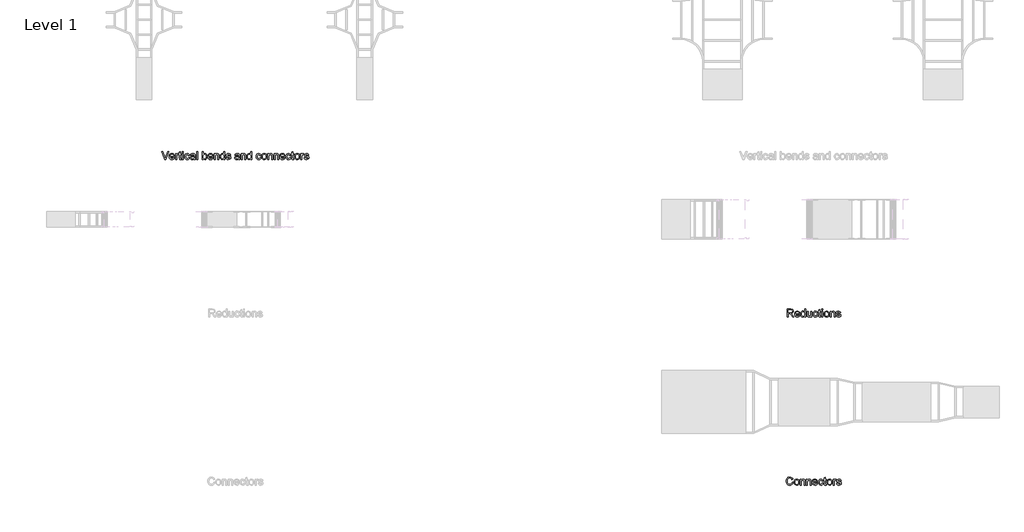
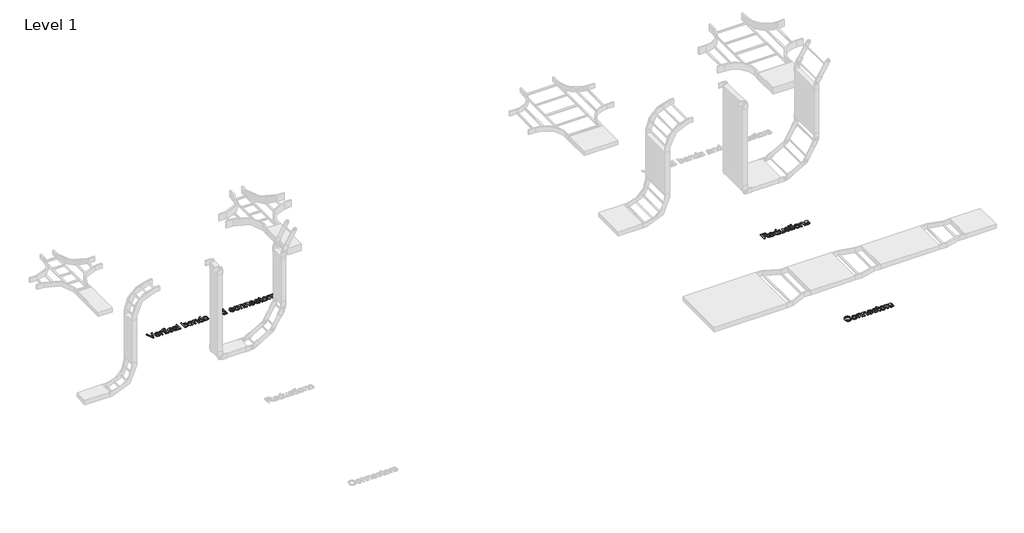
# One storey, part 94 of 106: 3 proxies.
"""IFC4 building model written with IfcOpenShell, lengths in millimetres."""

from ifc_helpers import new_model, si_unit, origin, origin_with_axes, place, context, project, spatial, polyline, outline, extrude, element, save

model = new_model("IFC4")

# Units and contexts
model_context = context("Model", 3, world=origin())
ifc_project = project(units=[si_unit("LENGTHUNIT", "METRE", prefix="MILLI")], contexts=[model_context])

# Site, building, storey
site = spatial("IfcSite", under=ifc_project)
building = spatial("IfcBuilding", under=site)
storey = spatial("IfcBuildingStorey", under=building, Name="Level 1", Elevation=0.0)

# Proxies
placement = place(None, origin())
element("IfcBuildingElementProxy", 1, Name="150mm Arial 2", ObjectType="150mm Arial 2", at=placement, inside=storey, context=model_context, shape_type="SweptSolid", body=[
    extrude(outline(polyline([(130972.9295586, 57347.8476348), (130913.0015816, 57498.5321), (130933.1615149, 57498.5321), (130973.2974406, 57389.9701232), (130981.4276327, 57365.5059705), (130989.4474602, 57389.9701232), (131029.6937505, 57498.5321), (131049.8168956, 57498.5321), (130992.353728, 57347.8476348), (130972.9295586, 57347.8476348)])), origin_with_axes(), (0.0, 0.0, 1.0), 15.0),
    extrude(outline(polyline([(131142.4863702, 57380.8098615), (131160.9540463, 57378.4554168), (131154.2999808, 57364.5402803), (131143.6819867, 57354.1384169), (131129.3391874, 57347.6544967), (131111.5107062, 57345.49319), (131089.4101953, 57349.2225937), (131072.4048501, 57360.4108049), (131061.5615283, 57378.3312566), (131057.9470877, 57402.2573819), (131061.5983165, 57426.988249), (131072.5520029, 57445.4835163), (131089.3274219, 57457.0166168), (131110.4438484, 57460.8609837), (131130.9026859, 57457.0258139), (131147.250442, 57445.5203045), (131157.9696037, 57427.0618254), (131161.5426575, 57402.3677465), (131161.4322929, 57397.2909749), (131076.7826459, 57397.2909749), (131080.043, 57383.1918975), (131087.6167706, 57372.8268223), (131098.5474644, 57366.4532667), (131111.8785882, 57364.3287482), (131130.3462644, 57368.2650855), (131142.4863702, 57380.8098615)]), holes=[polyline([(131076.7826459, 57416.1265331), (131142.7070994, 57416.1265331), (131140.1595166, 57426.0777411), (131135.1655185, 57433.1962577), (131124.1842409, 57439.8181336), (131110.370272, 57442.0254255), (131097.6737447, 57440.2641905), (131087.1753122, 57434.9804853), (131079.8774531, 57426.7445272), (131076.7826459, 57416.1265331)])]), origin_with_axes(), (0.0, 0.0, 1.0), 15.0),
    extrude(outline(polyline([(131291.0371198, 57363.556196), (131293.3915646, 57347.2958118), (131279.3016842, 57345.49319), (131263.5195466, 57348.620187), (131255.6468719, 57356.8239555), (131253.3660035, 57378.1978994), (131253.3660035, 57439.6709808), (131239.2393349, 57439.6709808), (131239.2393349, 57455.0484482), (131239.2393349, 57458.5065389), (131253.3660035, 57458.5065389), (131253.3660035, 57485.3987128), (131272.2015617, 57496.4719608), (131272.2015617, 57458.5065389), (131291.0371198, 57458.5065389), (131291.0371198, 57439.6709808), (131272.2015617, 57439.6709808), (131272.2015617, 57378.7497224), (131273.1948431, 57369.0376377), (131276.4138105, 57365.597941), (131282.8333514, 57364.3287482), (131291.0371198, 57363.556196)])), origin_with_axes(), (0.0, 0.0, 1.0), 15.0),
    extrude(outline(polyline([(131180.3782157, 57347.8476348), (131180.3782157, 57458.5065389), (131196.8593291, 57458.5065389), (131196.8593291, 57442.1357901), (131208.5579765, 57457.2189519), (131220.3302004, 57460.8609837), (131239.2393349, 57455.0484482), (131232.9485528, 57438.1626646), (131219.704801, 57442.0254255), (131209.0546172, 57438.3098174), (131202.2671944, 57428.0091215), (131199.2137738, 57406.0097782), (131199.2137738, 57347.8476348), (131180.3782157, 57347.8476348)])), origin_with_axes(), (0.0, 0.0, 1.0), 15.0),
    extrude(outline(polyline([(131309.872678, 57479.6965419), (131309.872678, 57498.5321), (131328.7082362, 57498.5321), (131328.7082362, 57479.6965419), (131309.872678, 57479.6965419)])), origin_with_axes(), (0.0, 0.0, 1.0), 15.0),
    extrude(outline(polyline([(131309.872678, 57347.8476348), (131309.872678, 57458.5065389), (131328.7082362, 57458.5065389), (131328.7082362, 57347.8476348), (131309.872678, 57347.8476348)])), origin_with_axes(), (0.0, 0.0, 1.0), 15.0),
    extrude(outline(polyline([(131427.5949165, 57387.8731959), (131446.4304746, 57385.5187511), (131441.1789591, 57368.7663247), (131431.3105246, 57356.1065856), (131417.7540731, 57348.1465389), (131401.4385066, 57345.49319), (131381.4027334, 57349.1950026), (131365.735559, 57360.3004403), (131355.6234026, 57378.3220596), (131352.2526838, 57402.7724167), (131353.6920221, 57419.5340401), (131358.0100371, 57434.0607803), (131365.2757065, 57445.7916175), (131375.5580082, 57454.1655314), (131387.8590624, 57459.1871206), (131401.1809892, 57460.8609837), (131417.096484, 57458.5617212), (131429.8206025, 57451.6639338), (131438.9486745, 57440.5355035), (131444.0760298, 57425.5443122), (131425.2404717, 57423.1898674), (131416.5032743, 57437.2981419), (131401.328142, 57442.0254255), (131389.1558465, 57439.6985719), (131379.4943456, 57432.7180111), (131373.1897679, 57420.7066639), (131371.088242, 57403.2874515), (131373.1437826, 57385.6337142), (131379.3104046, 57373.5809803), (131388.7971615, 57366.6418062), (131400.8131072, 57364.3287482), (131410.5665786, 57365.772685), (131418.5634135, 57370.1044955), (131424.3805475, 57377.4345442), (131427.5949165, 57387.8731959)])), origin_with_axes(), (0.0, 0.0, 1.0), 15.0),
    extrude(outline(polyline([(131533.5449311, 57361.9743034), (131515.27959, 57349.2087982), (131495.1012626, 57345.49319), (131479.3605117, 57347.7280731), (131467.7492362, 57354.4327225), (131460.5893329, 57364.6138567), (131458.2026985, 57377.2781944), (131461.807942, 57392.1774152), (131471.2809034, 57402.9931459), (131484.4694729, 57409.1735634), (131500.7666453, 57412.0062547), (131533.4345665, 57418.4809779), (131533.5449311, 57422.6748326), (131532.248147, 57431.0809362), (131528.3577949, 57436.580772), (131519.6573857, 57440.6642622), (131507.535674, 57442.0254255), (131488.4793867, 57438.4017879), (131479.3927014, 57425.5443122), (131460.5571432, 57427.8987569), (131468.7057294, 57446.2928567), (131485.1132664, 57457.0717991), (131509.9636952, 57460.8609837), (131532.790773, 57457.5132575), (131545.6850369, 57449.107154), (131551.4607842, 57436.3232546), (131552.3804892, 57419.8421412), (131552.3804892, 57396.4080581), (131553.3369824, 57363.6849547), (131557.0893788, 57347.8476348), (131538.2538206, 57347.8476348), (131533.5449311, 57361.9743034)]), holes=[polyline([(131533.5449311, 57399.6454197), (131503.1578783, 57393.8696724), (131486.9526764, 57390.8162518), (131479.6134306, 57385.8498449), (131477.0382566, 57378.6025696), (131482.648457, 57368.4122383), (131499.1111763, 57364.3287482), (131518.1674637, 57368.8353026), (131530.4547223, 57379.7430038), (131533.4345665, 57394.3111308), (131533.5449311, 57399.6454197)])]), origin_with_axes(), (0.0, 0.0, 1.0), 15.0),
    extrude(outline(polyline([(131578.2793817, 57347.8476348), (131578.2793817, 57498.5321), (131597.1149398, 57498.5321), (131597.1149398, 57347.8476348), (131578.2793817, 57347.8476348)])), origin_with_axes(), (0.0, 0.0, 1.0), 15.0),
    extrude(outline(polyline([(131703.0649544, 57347.8476348), (131684.2293963, 57347.8476348), (131684.2293963, 57498.5321), (131703.0649544, 57498.5321), (131703.0649544, 57442.6508249), (131716.253524, 57456.308444), (131732.6426669, 57460.8609837), (131751.5150132, 57456.7590995), (131766.1567166, 57445.2259989), (131775.1514314, 57427.2917516), (131778.4071871, 57404.8325558), (131775.0364683, 57379.6878215), (131764.9243119, 57360.981022), (131750.084872, 57349.365148), (131732.5323023, 57345.49319), (131715.7844744, 57350.4871881), (131703.0649544, 57365.4691823), (131703.0649544, 57347.8476348)]), holes=[polyline([(131703.0649544, 57403.949639), (131704.3525414, 57388.2410779), (131708.2153024, 57377.6092882), (131718.0837369, 57367.6488832), (131730.9136215, 57364.3287482), (131741.7845344, 57366.7751634), (131751.0735548, 57374.1144092), (131757.4471104, 57386.3005003), (131759.5716289, 57403.2874515), (131757.5344824, 57420.5227229), (131751.4230427, 57432.5708583), (131742.4237294, 57439.6617837), (131731.7229619, 57442.0254255), (131720.8520489, 57439.5790103), (131711.5630285, 57432.2397645), (131705.189473, 57420.2744026), (131703.0649544, 57403.949639)])]), origin_with_axes(), (0.0, 0.0, 1.0), 15.0),
    extrude(outline(polyline([(131877.0731382, 57380.8098615), (131895.5408143, 57378.4554168), (131888.8867487, 57364.5402803), (131878.2687546, 57354.1384169), (131863.9259554, 57347.6544967), (131846.0974742, 57345.49319), (131823.9969633, 57349.2225937), (131806.9916181, 57360.4108049), (131796.1482963, 57378.3312566), (131792.5338557, 57402.2573819), (131796.1850845, 57426.988249), (131807.1387709, 57445.4835163), (131823.9141899, 57457.0166168), (131845.0306164, 57460.8609837), (131865.4894538, 57457.0258139), (131881.83721, 57445.5203045), (131892.5563716, 57427.0618254), (131896.1294255, 57402.3677465), (131896.0190609, 57397.2909749), (131811.3694138, 57397.2909749), (131814.629768, 57383.1918975), (131822.2035386, 57372.8268223), (131833.1342324, 57366.4532667), (131846.4653562, 57364.3287482), (131864.9330323, 57368.2650855), (131877.0731382, 57380.8098615)]), holes=[polyline([(131811.3694138, 57416.1265331), (131877.2938674, 57416.1265331), (131874.7462845, 57426.0777411), (131869.7522865, 57433.1962577), (131858.7710089, 57439.8181336), (131844.95704, 57442.0254255), (131832.2605126, 57440.2641905), (131821.7620802, 57434.9804853), (131814.4642211, 57426.7445272), (131811.3694138, 57416.1265331)])]), origin_with_axes(), (0.0, 0.0, 1.0), 15.0),
    extrude(outline(polyline([(131914.9649837, 57347.8476348), (131914.9649837, 57458.5065389), (131933.8005418, 57458.5065389), (131933.8005418, 57443.0554951), (131948.2031219, 57456.4096116), (131967.8664146, 57460.8609837), (131985.653509, 57457.2741342), (131997.7936149, 57447.8563552), (132003.4406035, 57434.0055981), (132004.4338849, 57415.7954393), (132004.4338849, 57347.8476348), (131985.5983267, 57347.8476348), (131985.5983267, 57413.2570535), (131983.427823, 57429.9221079), (131975.7574834, 57438.7328817), (131962.8264312, 57442.0254255), (131951.7945699, 57440.1768185), (131942.3905864, 57434.6309974), (131935.948053, 57423.9164343), (131933.8005418, 57406.5616012), (131933.8005418, 57347.8476348), (131914.9649837, 57347.8476348)])), origin_with_axes(), (0.0, 0.0, 1.0), 15.0),
    extrude(outline(polyline([(132098.6116757, 57347.8476348), (132098.6116757, 57365.6163351), (132086.1496731, 57350.5239763), (132068.9235986, 57345.49319), (132056.7467046, 57347.3142059), (132045.5998802, 57352.7772535), (132036.163707, 57361.5006553), (132029.1187668, 57373.1027337), (132024.731774, 57387.1144392), (132023.269443, 57403.0667223), (132028.6589143, 57433.0491049), (132035.3911548, 57444.9408904), (132044.8089339, 57453.6872848), (132056.1994801, 57459.067559), (132068.8500222, 57460.8609837), (132086.2140524, 57455.7290299), (132098.6116757, 57442.3933075), (132098.6116757, 57498.5321), (132117.4472338, 57498.5321), (132117.4472338, 57347.8476348), (132098.6116757, 57347.8476348)]), holes=[polyline([(132042.1050012, 57403.1402987), (132044.2295197, 57386.1027638), (132050.6030753, 57373.9856505), (132059.8645045, 57366.7429738), (132070.652644, 57364.3287482), (132081.436185, 57366.6326092), (132090.4630895, 57373.5441921), (132096.5745291, 57385.1922558), (132098.6116757, 57401.7055589), (132096.5377409, 57419.7593678), (132090.3159367, 57432.2765527), (132081.059106, 57439.5882073), (132069.8800918, 57442.0254255), (132058.9815877, 57439.6847764), (132050.0512523, 57432.6628288), (132044.091564, 57420.6008979), (132042.1050012, 57403.1402987)])]), origin_with_axes(), (0.0, 0.0, 1.0), 15.0),
    extrude(outline(polyline([(132138.6372367, 57380.8098615), (132157.4727949, 57383.1643063), (132160.443442, 57375.1076906), (132166.1915982, 57369.1847905), (132186.1675905, 57364.3287482), (132205.3710307, 57368.7801203), (132211.6250246, 57379.227969), (132210.052329, 57384.028829), (132205.3342425, 57387.6892549), (132185.9468613, 57393.060332), (132157.5831595, 57402.275776), (132145.2039303, 57413.0363243), (132140.9916815, 57428.2298507), (132144.3761959, 57442.2645488), (132153.6100339, 57452.988309), (132165.5845929, 57458.5617212), (132181.7897948, 57460.8609837), (132204.7088431, 57457.1637696), (132219.2769701, 57447.1573794), (132225.7516932, 57430.2532017), (132206.916135, 57427.8987569), (132199.8344066, 57438.2914233), (132183.2613227, 57442.0254255), (132165.235105, 57438.4569702), (132159.8272397, 57430.1428371), (132162.0713198, 57424.6613954), (132169.0978659, 57420.5043288), (132185.3214619, 57416.4944151), (132212.9677939, 57407.628459), (132225.8068755, 57397.5852805), (132230.4605827, 57381.2145317), (132224.9975351, 57363.188314), (132209.2337916, 57350.1101091), (132185.9100731, 57345.49319), (132166.9181651, 57347.7188761), (132153.0582109, 57354.3959343), (132143.8059788, 57365.4507882), (132138.6372367, 57380.8098615)])), origin_with_axes(), (0.0, 0.0, 1.0), 15.0),
    extrude(outline(polyline([(132381.145048, 57361.9743034), (132362.8797069, 57349.2087982), (132342.7013795, 57345.49319), (132326.9606286, 57347.7280731), (132315.3493531, 57354.4327225), (132308.1894498, 57364.6138567), (132305.8028153, 57377.2781944), (132309.4080589, 57392.1774152), (132318.8810203, 57402.9931459), (132332.0695898, 57409.1735634), (132348.3667622, 57412.0062547), (132381.0346834, 57418.4809779), (132381.145048, 57422.6748326), (132379.8482639, 57431.0809362), (132375.9579118, 57436.580772), (132367.2575026, 57440.6642622), (132355.1357909, 57442.0254255), (132336.0795035, 57438.4017879), (132326.9928183, 57425.5443122), (132308.1572601, 57427.8987569), (132316.3058463, 57446.2928567), (132332.7133833, 57457.0717991), (132357.5638121, 57460.8609837), (132380.3908899, 57457.5132575), (132393.2851538, 57449.107154), (132399.0609011, 57436.3232546), (132399.9806061, 57419.8421412), (132399.9806061, 57396.4080581), (132400.9370993, 57363.6849547), (132404.6894956, 57347.8476348), (132385.8539375, 57347.8476348), (132381.145048, 57361.9743034)]), holes=[polyline([(132381.145048, 57399.6454197), (132350.7579952, 57393.8696724), (132334.5527933, 57390.8162518), (132327.2135475, 57385.8498449), (132324.6383735, 57378.6025696), (132330.2485739, 57368.4122383), (132346.7112932, 57364.3287482), (132365.7675806, 57368.8353026), (132378.0548392, 57379.7430038), (132381.0346834, 57394.3111308), (132381.145048, 57399.6454197)])]), origin_with_axes(), (0.0, 0.0, 1.0), 15.0),
    extrude(outline(polyline([(132425.8794986, 57347.8476348), (132425.8794986, 57458.5065389), (132444.7150567, 57458.5065389), (132444.7150567, 57443.0554951), (132459.1176368, 57456.4096116), (132478.7809295, 57460.8609837), (132496.5680239, 57457.2741342), (132508.7081298, 57447.8563552), (132514.3551184, 57434.0055981), (132515.3483998, 57415.7954393), (132515.3483998, 57347.8476348), (132496.5128416, 57347.8476348), (132496.5128416, 57413.2570535), (132494.3423379, 57429.9221079), (132486.6719983, 57438.7328817), (132473.7409461, 57442.0254255), (132462.7090848, 57440.1768185), (132453.3051013, 57434.6309974), (132446.8625679, 57423.9164343), (132444.7150567, 57406.5616012), (132444.7150567, 57347.8476348), (132425.8794986, 57347.8476348)])), origin_with_axes(), (0.0, 0.0, 1.0), 15.0),
    extrude(outline(polyline([(132609.5261906, 57347.8476348), (132609.5261906, 57365.6163351), (132597.064188, 57350.5239763), (132579.8381135, 57345.49319), (132567.6612195, 57347.3142059), (132556.5143951, 57352.7772535), (132547.0782219, 57361.5006553), (132540.0332817, 57373.1027337), (132535.6462889, 57387.1144392), (132534.1839579, 57403.0667223), (132539.5734292, 57433.0491049), (132546.3056697, 57444.9408904), (132555.7234488, 57453.6872848), (132567.113995, 57459.067559), (132579.7645371, 57460.8609837), (132597.1285673, 57455.7290299), (132609.5261906, 57442.3933075), (132609.5261906, 57498.5321), (132628.3617487, 57498.5321), (132628.3617487, 57347.8476348), (132609.5261906, 57347.8476348)]), holes=[polyline([(132553.0195161, 57403.1402987), (132555.1440346, 57386.1027638), (132561.5175902, 57373.9856505), (132570.7790194, 57366.7429738), (132581.5671589, 57364.3287482), (132592.3506999, 57366.6326092), (132601.3776044, 57373.5441921), (132607.489044, 57385.1922558), (132609.5261906, 57401.7055589), (132607.4522558, 57419.7593678), (132601.2304516, 57432.2765527), (132591.9736209, 57439.5882073), (132580.7946067, 57442.0254255), (132569.8961026, 57439.6847764), (132560.9657672, 57432.6628288), (132555.0060789, 57420.6008979), (132553.0195161, 57403.1402987)])]), origin_with_axes(), (0.0, 0.0, 1.0), 15.0),
    extrude(outline(polyline([(132786.1095482, 57387.8731959), (132804.9451064, 57385.5187511), (132799.6935909, 57368.7663247), (132789.8251564, 57356.1065856), (132776.2687049, 57348.1465389), (132759.9531384, 57345.49319), (132739.9173652, 57349.1950026), (132724.2501908, 57360.3004403), (132714.1380344, 57378.3220596), (132710.7673156, 57402.7724167), (132712.2066539, 57419.5340401), (132716.5246689, 57434.0607803), (132723.7903383, 57445.7916175), (132734.07264, 57454.1655314), (132746.3736942, 57459.1871206), (132759.695621, 57460.8609837), (132775.6111158, 57458.5617212), (132788.3352343, 57451.6639338), (132797.4633063, 57440.5355035), (132802.5906616, 57425.5443122), (132783.7551035, 57423.1898674), (132775.0179061, 57437.2981419), (132759.8427738, 57442.0254255), (132747.6704783, 57439.6985719), (132738.0089774, 57432.7180111), (132731.7043997, 57420.7066639), (132729.6028738, 57403.2874515), (132731.6584144, 57385.6337142), (132737.8250364, 57373.5809803), (132747.3117933, 57366.6418062), (132759.327739, 57364.3287482), (132769.0812104, 57365.772685), (132777.0780453, 57370.1044955), (132782.8951793, 57377.4345442), (132786.1095482, 57387.8731959)])), origin_with_axes(), (0.0, 0.0, 1.0), 15.0),
    extrude(outline(polyline([(132816.7173302, 57403.1770869), (132820.7916233, 57429.8577286), (132833.0145026, 57448.6105133), (132848.1160585, 57457.7983661), (132866.1974586, 57460.8609837), (132885.9849114, 57457.13158), (132901.7900416, 57445.9433688), (132912.1505183, 57428.179267), (132915.6040105, 57404.7221912), (132914.0773003, 57385.693495), (132909.4971694, 57371.2081415), (132901.9969752, 57360.3602211), (132891.710075, 57352.2438246), (132879.4917942, 57347.1808487), (132866.1974586, 57345.49319), (132846.1708825, 57349.2087982), (132830.3841464, 57360.3556226), (132820.1340343, 57378.492205), (132816.7173302, 57403.1770869)]), holes=[polyline([(132835.5528884, 57403.2138751), (132837.7325892, 57386.1671431), (132844.2716917, 57374.0224387), (132854.1125351, 57366.7521708), (132866.1974586, 57364.3287482), (132878.2271998, 57366.7659664), (132888.0496491, 57374.077621), (132894.5887516, 57386.3832738), (132896.7684524, 57403.8024862), (132894.574956, 57420.3525775), (132887.9944668, 57432.331735), (132878.158222, 57439.6020029), (132866.1974586, 57442.0254255), (132854.1125351, 57439.6112), (132844.2716917, 57432.3685232), (132837.7325892, 57420.25141), (132835.5528884, 57403.2138751)])]), origin_with_axes(), (0.0, 0.0, 1.0), 15.0),
    extrude(outline(polyline([(132936.7940135, 57347.8476348), (132936.7940135, 57458.5065389), (132955.6295716, 57458.5065389), (132955.6295716, 57443.0554951), (132970.0321517, 57456.4096116), (132989.6954444, 57460.8609837), (133007.4825388, 57457.2741342), (133019.6226447, 57447.8563552), (133025.2696333, 57434.0055981), (133026.2629147, 57415.7954393), (133026.2629147, 57347.8476348), (133007.4273565, 57347.8476348), (133007.4273565, 57413.2570535), (133005.2568528, 57429.9221079), (132997.5865132, 57438.7328817), (132984.655461, 57442.0254255), (132973.6235997, 57440.1768185), (132964.2196162, 57434.6309974), (132957.7770828, 57423.9164343), (132955.6295716, 57406.5616012), (132955.6295716, 57347.8476348), (132936.7940135, 57347.8476348)])), origin_with_axes(), (0.0, 0.0, 1.0), 15.0),
    extrude(outline(polyline([(133052.1618072, 57347.8476348), (133052.1618072, 57458.5065389), (133070.9973653, 57458.5065389), (133070.9973653, 57443.0554951), (133085.3999454, 57456.4096116), (133105.0632381, 57460.8609837), (133122.8503325, 57457.2741342), (133134.9904384, 57447.8563552), (133140.637427, 57434.0055981), (133141.6307084, 57415.7954393), (133141.6307084, 57347.8476348), (133122.7951502, 57347.8476348), (133122.7951502, 57413.2570535), (133120.6246465, 57429.9221079), (133112.9543069, 57438.7328817), (133100.0232547, 57442.0254255), (133088.9913934, 57440.1768185), (133079.5874099, 57434.6309974), (133073.1448765, 57423.9164343), (133070.9973653, 57406.5616012), (133070.9973653, 57347.8476348), (133052.1618072, 57347.8476348)])), origin_with_axes(), (0.0, 0.0, 1.0), 15.0),
    extrude(outline(polyline([(133245.005549, 57380.8098615), (133263.4732252, 57378.4554168), (133256.8191596, 57364.5402803), (133246.2011655, 57354.1384169), (133231.8583662, 57347.6544967), (133214.029885, 57345.49319), (133191.9293742, 57349.2225937), (133174.9240289, 57360.4108049), (133164.0807071, 57378.3312566), (133160.4662665, 57402.2573819), (133164.1174953, 57426.988249), (133175.0711817, 57445.4835163), (133191.8466007, 57457.0166168), (133212.9630272, 57460.8609837), (133233.4218647, 57457.0258139), (133249.7696209, 57445.5203045), (133260.4887825, 57427.0618254), (133264.0618364, 57402.3677465), (133263.9514718, 57397.2909749), (133179.3018247, 57397.2909749), (133182.5621789, 57383.1918975), (133190.1359494, 57372.8268223), (133201.0666432, 57366.4532667), (133214.397767, 57364.3287482), (133232.8654432, 57368.2650855), (133245.005549, 57380.8098615)]), holes=[polyline([(133179.3018247, 57416.1265331), (133245.2262782, 57416.1265331), (133242.6786954, 57426.0777411), (133237.6846973, 57433.1962577), (133226.7034198, 57439.8181336), (133212.8894508, 57442.0254255), (133200.1929235, 57440.2641905), (133189.6944911, 57434.9804853), (133182.396632, 57426.7445272), (133179.3018247, 57416.1265331)])]), origin_with_axes(), (0.0, 0.0, 1.0), 15.0),
    extrude(outline(polyline([(133353.5307376, 57387.8731959), (133372.3662958, 57385.5187511), (133367.1147803, 57368.7663247), (133357.2463458, 57356.1065856), (133343.6898942, 57348.1465389), (133327.3743277, 57345.49319), (133307.3385546, 57349.1950026), (133291.6713801, 57360.3004403), (133281.5592238, 57378.3220596), (133278.188505, 57402.7724167), (133279.6278433, 57419.5340401), (133283.9458582, 57434.0607803), (133291.2115276, 57445.7916175), (133301.4938294, 57454.1655314), (133313.7948836, 57459.1871206), (133327.1168103, 57460.8609837), (133343.0323052, 57458.5617212), (133355.7564237, 57451.6639338), (133364.8844957, 57440.5355035), (133370.011851, 57425.5443122), (133351.1762928, 57423.1898674), (133342.4390954, 57437.2981419), (133327.2639631, 57442.0254255), (133315.0916676, 57439.6985719), (133305.4301667, 57432.7180111), (133299.125589, 57420.7066639), (133297.0240631, 57403.2874515), (133299.0796038, 57385.6337142), (133305.2462257, 57373.5809803), (133314.7329827, 57366.6418062), (133326.7489284, 57364.3287482), (133336.5023998, 57365.772685), (133344.4992346, 57370.1044955), (133350.3163687, 57377.4345442), (133353.5307376, 57387.8731959)])), origin_with_axes(), (0.0, 0.0, 1.0), 15.0),
    extrude(outline(polyline([(133428.8729702, 57363.556196), (133431.227415, 57347.2958118), (133417.1375346, 57345.49319), (133401.355397, 57348.620187), (133393.4827223, 57356.8239555), (133391.2018539, 57378.1978994), (133391.2018539, 57439.6709808), (133377.0751853, 57439.6709808), (133377.0751853, 57458.5065389), (133391.2018539, 57458.5065389), (133391.2018539, 57485.3987128), (133410.0374121, 57496.4719608), (133410.0374121, 57458.5065389), (133428.8729702, 57458.5065389), (133428.8729702, 57439.6709808), (133410.0374121, 57439.6709808), (133410.0374121, 57378.7497224), (133411.0306934, 57369.0376377), (133414.2496609, 57365.597941), (133420.6692017, 57364.3287482), (133428.8729702, 57363.556196)])), origin_with_axes(), (0.0, 0.0, 1.0), 15.0),
    extrude(outline(polyline([(133442.9996388, 57403.1770869), (133447.0739319, 57429.8577286), (133459.2968112, 57448.6105133), (133474.3983671, 57457.7983661), (133492.4797672, 57460.8609837), (133512.26722, 57457.13158), (133528.0723502, 57445.9433688), (133538.4328269, 57428.179267), (133541.8863191, 57404.7221912), (133540.3596089, 57385.693495), (133535.779478, 57371.2081415), (133528.2792838, 57360.3602211), (133517.9923835, 57352.2438246), (133505.7741028, 57347.1808487), (133492.4797672, 57345.49319), (133472.4531911, 57349.2087982), (133456.666455, 57360.3556226), (133446.4163429, 57378.492205), (133442.9996388, 57403.1770869)]), holes=[polyline([(133461.835197, 57403.2138751), (133464.0148978, 57386.1671431), (133470.5540003, 57374.0224387), (133480.3948436, 57366.7521708), (133492.4797672, 57364.3287482), (133504.5095084, 57366.7659664), (133514.3319577, 57374.077621), (133520.8710602, 57386.3832738), (133523.050761, 57403.8024862), (133520.8572646, 57420.3525775), (133514.2767754, 57432.331735), (133504.4405305, 57439.6020029), (133492.4797672, 57442.0254255), (133480.3948436, 57439.6112), (133470.5540003, 57432.3685232), (133464.0148978, 57420.25141), (133461.835197, 57403.2138751)])]), origin_with_axes(), (0.0, 0.0, 1.0), 15.0),
    extrude(outline(polyline([(133563.0763221, 57347.8476348), (133563.0763221, 57458.5065389), (133579.5574354, 57458.5065389), (133579.5574354, 57442.1357901), (133591.2560829, 57457.2189519), (133603.0283067, 57460.8609837), (133621.9374413, 57455.0484482), (133615.6466592, 57438.1626646), (133602.4029073, 57442.0254255), (133591.7527236, 57438.3098174), (133584.9653008, 57428.0091215), (133581.9118802, 57406.0097782), (133581.9118802, 57347.8476348), (133563.0763221, 57347.8476348)])), origin_with_axes(), (0.0, 0.0, 1.0), 15.0),
    extrude(outline(polyline([(133626.6463308, 57380.8098615), (133645.481889, 57383.1643063), (133648.4525361, 57375.1076906), (133654.2006923, 57369.1847905), (133674.1766846, 57364.3287482), (133693.3801247, 57368.7801203), (133699.6341187, 57379.227969), (133698.0614231, 57384.028829), (133693.3433365, 57387.6892549), (133673.9559554, 57393.060332), (133645.5922536, 57402.275776), (133633.2130244, 57413.0363243), (133629.0007756, 57428.2298507), (133632.3852899, 57442.2645488), (133641.619128, 57452.988309), (133653.593687, 57458.5617212), (133669.7988889, 57460.8609837), (133692.7179372, 57457.1637696), (133707.2860642, 57447.1573794), (133713.7607873, 57430.2532017), (133694.9252291, 57427.8987569), (133687.8435007, 57438.2914233), (133671.2704168, 57442.0254255), (133653.2441991, 57438.4569702), (133647.8363337, 57430.1428371), (133650.0804139, 57424.6613954), (133657.10696, 57420.5043288), (133673.330556, 57416.4944151), (133700.9768879, 57407.628459), (133713.8159696, 57397.5852805), (133718.4696768, 57381.2145317), (133713.0066292, 57363.188314), (133697.2428857, 57350.1101091), (133673.9191672, 57345.49319), (133654.9272592, 57347.7188761), (133641.067305, 57354.3959343), (133631.8150729, 57365.4507882), (133626.6463308, 57380.8098615)])), origin_with_axes(), (0.0, 0.0, 1.0), 15.0),
])
element("IfcBuildingElementProxy", 2, Name="150mm Arial 2", ObjectType="150mm Arial 2", at=placement, inside=storey, context=model_context, shape_type="SweptSolid", body=[
    extrude(outline(polyline([(142812.5466362, 54347.8476348), (142812.5466362, 54498.5321), (142877.4778084, 54498.5321), (142907.6257379, 54494.467004), (142916.9055612, 54488.8384094), (142924.1068512, 54480.0828179), (142928.7283688, 54469.2257006), (142930.2688747, 54457.2925283), (142927.7166933, 54442.4484898), (142920.0601493, 54430.1428371), (142907.0693163, 54421.1205312), (142888.5142682, 54416.1265331), (142899.2196343, 54408.0699174), (142914.4867371, 54388.6825362), (142939.6130773, 54347.8476348), (142917.7240986, 54347.8476348), (142898.1159883, 54379.0808162), (142883.9525315, 54399.7557843), (142874.0013235, 54409.5230513), (142865.0433969, 54413.1099007), (142854.1173017, 54413.7720883), (142831.3821944, 54413.7720883), (142831.3821944, 54347.8476348), (142812.5466362, 54347.8476348)]), holes=[polyline([(142831.3821944, 54432.6076465), (142873.541471, 54432.6076465), (142895.0441736, 54435.2747909), (142907.2578559, 54443.8096532), (142911.4333165, 54456.5935526), (142909.4421552, 54465.7814054), (142903.4686713, 54473.1850305), (142893.1909681, 54478.068664), (142878.2871487, 54479.6965419), (142831.3821944, 54479.6965419), (142831.3821944, 54432.6076465)])]), origin_with_axes(), (0.0, 0.0, 1.0), 15.0),
    extrude(outline(polyline([(143038.3526048, 54380.8098615), (143056.820281, 54378.4554168), (143050.1662154, 54364.5402803), (143039.5482213, 54354.1384169), (143025.205422, 54347.6544967), (143007.3769409, 54345.49319), (142985.27643, 54349.2225937), (142968.2710848, 54360.4108049), (142957.427763, 54378.3312566), (142953.8133224, 54402.2573819), (142957.4645512, 54426.988249), (142968.4182376, 54445.4835163), (142985.1936565, 54457.0166168), (143006.3100831, 54460.8609837), (143026.7689205, 54457.0258139), (143043.1166767, 54445.5203045), (143053.8358383, 54427.0618254), (143057.4088922, 54402.3677465), (143057.2985276, 54397.2909749), (142972.6488805, 54397.2909749), (142975.9092347, 54383.1918975), (142983.4830053, 54372.8268223), (142994.413699, 54366.4532667), (143007.7448228, 54364.3287482), (143026.212499, 54368.2650855), (143038.3526048, 54380.8098615)]), holes=[polyline([(142972.6488805, 54416.1265331), (143038.573334, 54416.1265331), (143036.0257512, 54426.0777411), (143031.0317531, 54433.1962577), (143020.0504756, 54439.8181336), (143006.2365067, 54442.0254255), (142993.5399793, 54440.2641905), (142983.0415469, 54434.9804853), (142975.7436878, 54426.7445272), (142972.6488805, 54416.1265331)])]), origin_with_axes(), (0.0, 0.0, 1.0), 15.0),
    extrude(outline(polyline([(143144.5233487, 54347.8476348), (143144.5233487, 54365.6163351), (143132.0613461, 54350.5239763), (143114.8352716, 54345.49319), (143102.6583776, 54347.3142059), (143091.5115531, 54352.7772535), (143082.07538, 54361.5006553), (143075.0304398, 54373.1027337), (143070.643447, 54387.1144392), (143069.181116, 54403.0667223), (143074.5705873, 54433.0491049), (143081.3028278, 54444.9408904), (143090.7206069, 54453.6872848), (143102.1111531, 54459.067559), (143114.7616952, 54460.8609837), (143132.1257254, 54455.7290299), (143144.5233487, 54442.3933075), (143144.5233487, 54498.5321), (143163.3589068, 54498.5321), (143163.3589068, 54347.8476348), (143144.5233487, 54347.8476348)]), holes=[polyline([(143088.0166742, 54403.1402987), (143090.1411927, 54386.1027638), (143096.5147483, 54373.9856505), (143105.7761775, 54366.7429738), (143116.564317, 54364.3287482), (143127.347858, 54366.6326092), (143136.3747625, 54373.5441921), (143142.4862021, 54385.1922558), (143144.5233487, 54401.7055589), (143142.4494139, 54419.7593678), (143136.2276097, 54432.2765527), (143126.970779, 54439.5882073), (143115.7917648, 54442.0254255), (143104.8932607, 54439.6847764), (143095.9629253, 54432.6628288), (143090.003237, 54420.6008979), (143088.0166742, 54403.1402987)])]), origin_with_axes(), (0.0, 0.0, 1.0), 15.0),
    extrude(outline(polyline([(143262.2455871, 54347.8476348), (143262.2455871, 54366.8671339), (143247.4935191, 54350.836676), (143228.2532908, 54345.49319), (143210.5397727, 54349.2455864), (143198.3260904, 54358.6633654), (143192.71589, 54372.5325167), (143191.612244, 54390.0436996), (143191.612244, 54458.5065389), (143210.4478022, 54458.5065389), (143210.4478022, 54398.9096557), (143211.5882364, 54379.7062156), (143219.0378468, 54368.4306324), (143233.0725449, 54364.3287482), (143248.7995002, 54368.5226029), (143259.1921666, 54379.9453389), (143262.2455871, 54400.9330067), (143262.2455871, 54458.5065389), (143281.0811453, 54458.5065389), (143281.0811453, 54347.8476348), (143262.2455871, 54347.8476348)])), origin_with_axes(), (0.0, 0.0, 1.0), 15.0),
    extrude(outline(polyline([(143377.6133808, 54387.8731959), (143396.448939, 54385.5187511), (143391.1974235, 54368.7663247), (143381.3289889, 54356.1065856), (143367.7725374, 54348.1465389), (143351.4569709, 54345.49319), (143331.4211978, 54349.1950026), (143315.7540233, 54360.3004403), (143305.641867, 54378.3220596), (143302.2711482, 54402.7724167), (143303.7104865, 54419.5340401), (143308.0285014, 54434.0607803), (143315.2941708, 54445.7916175), (143325.5764726, 54454.1655314), (143337.8775268, 54459.1871206), (143351.1994535, 54460.8609837), (143367.1149484, 54458.5617212), (143379.8390669, 54451.6639338), (143388.9671389, 54440.5355035), (143394.0944942, 54425.5443122), (143375.258936, 54423.1898674), (143366.5217386, 54437.2981419), (143351.3466063, 54442.0254255), (143339.1743108, 54439.6985719), (143329.5128099, 54432.7180111), (143323.2082322, 54420.7066639), (143321.1067063, 54403.2874515), (143323.162247, 54385.6337142), (143329.3288689, 54373.5809803), (143338.8156259, 54366.6418062), (143350.8315715, 54364.3287482), (143360.5850429, 54365.772685), (143368.5818778, 54370.1044955), (143374.3990119, 54377.4345442), (143377.6133808, 54387.8731959)])), origin_with_axes(), (0.0, 0.0, 1.0), 15.0),
    extrude(outline(polyline([(143452.9556134, 54363.556196), (143455.3100582, 54347.2958118), (143441.2201778, 54345.49319), (143425.4380402, 54348.620187), (143417.5653655, 54356.8239555), (143415.2844971, 54378.1978994), (143415.2844971, 54439.6709808), (143401.1578285, 54439.6709808), (143401.1578285, 54458.5065389), (143415.2844971, 54458.5065389), (143415.2844971, 54485.3987128), (143434.1200553, 54496.4719608), (143434.1200553, 54458.5065389), (143452.9556134, 54458.5065389), (143452.9556134, 54439.6709808), (143434.1200553, 54439.6709808), (143434.1200553, 54378.7497224), (143435.1133366, 54369.0376377), (143438.3323041, 54365.597941), (143444.7518449, 54364.3287482), (143452.9556134, 54363.556196)])), origin_with_axes(), (0.0, 0.0, 1.0), 15.0),
    extrude(outline(polyline([(143471.7911716, 54479.6965419), (143471.7911716, 54498.5321), (143490.6267297, 54498.5321), (143490.6267297, 54479.6965419), (143471.7911716, 54479.6965419)])), origin_with_axes(), (0.0, 0.0, 1.0), 15.0),
    extrude(outline(polyline([(143471.7911716, 54347.8476348), (143471.7911716, 54458.5065389), (143490.6267297, 54458.5065389), (143490.6267297, 54347.8476348), (143471.7911716, 54347.8476348)])), origin_with_axes(), (0.0, 0.0, 1.0), 15.0),
    extrude(outline(polyline([(143514.1711774, 54403.1770869), (143518.2454705, 54429.8577286), (143530.4683498, 54448.6105133), (143545.5699057, 54457.7983661), (143563.6513058, 54460.8609837), (143583.4387586, 54457.13158), (143599.2438888, 54445.9433688), (143609.6043655, 54428.179267), (143613.0578577, 54404.7221912), (143611.5311474, 54385.693495), (143606.9510166, 54371.2081415), (143599.4508224, 54360.3602211), (143589.1639221, 54352.2438246), (143576.9456414, 54347.1808487), (143563.6513058, 54345.49319), (143543.6247296, 54349.2087982), (143527.8379935, 54360.3556226), (143517.5878814, 54378.492205), (143514.1711774, 54403.1770869)]), holes=[polyline([(143533.0067356, 54403.2138751), (143535.1864364, 54386.1671431), (143541.7255388, 54374.0224387), (143551.5663822, 54366.7521708), (143563.6513058, 54364.3287482), (143575.681047, 54366.7659664), (143585.5034963, 54374.077621), (143592.0425987, 54386.3832738), (143594.2222996, 54403.8024862), (143592.0288032, 54420.3525775), (143585.448314, 54432.331735), (143575.6120691, 54439.6020029), (143563.6513058, 54442.0254255), (143551.5663822, 54439.6112), (143541.7255388, 54432.3685232), (143535.1864364, 54420.25141), (143533.0067356, 54403.2138751)])]), origin_with_axes(), (0.0, 0.0, 1.0), 15.0),
    extrude(outline(polyline([(143634.2478606, 54347.8476348), (143634.2478606, 54458.5065389), (143653.0834188, 54458.5065389), (143653.0834188, 54443.0554951), (143667.4859989, 54456.4096116), (143687.1492915, 54460.8609837), (143704.936386, 54457.2741342), (143717.0764918, 54447.8563552), (143722.7234805, 54434.0055981), (143723.7167619, 54415.7954393), (143723.7167619, 54347.8476348), (143704.8812037, 54347.8476348), (143704.8812037, 54413.2570535), (143702.7106999, 54429.9221079), (143695.0403603, 54438.7328817), (143682.1093082, 54442.0254255), (143671.0774469, 54440.1768185), (143661.6734634, 54434.6309974), (143655.2309299, 54423.9164343), (143653.0834188, 54406.5616012), (143653.0834188, 54347.8476348), (143634.2478606, 54347.8476348)])), origin_with_axes(), (0.0, 0.0, 1.0), 15.0),
    extrude(outline(polyline([(143742.55232, 54380.8098615), (143761.3878782, 54383.1643063), (143764.3585253, 54375.1076906), (143770.1066815, 54369.1847905), (143790.0826738, 54364.3287482), (143809.2861139, 54368.7801203), (143815.5401079, 54379.227969), (143813.9674123, 54384.028829), (143809.2493257, 54387.6892549), (143789.8619446, 54393.060332), (143761.4982428, 54402.275776), (143749.1190136, 54413.0363243), (143744.9067648, 54428.2298507), (143748.2912791, 54442.2645488), (143757.5251172, 54452.988309), (143769.4996762, 54458.5617212), (143785.704878, 54460.8609837), (143808.6239263, 54457.1637696), (143823.1920534, 54447.1573794), (143829.6667765, 54430.2532017), (143810.8312183, 54427.8987569), (143803.7494899, 54438.2914233), (143787.176406, 54442.0254255), (143769.1501883, 54438.4569702), (143763.7423229, 54430.1428371), (143765.9864031, 54424.6613954), (143773.0129492, 54420.5043288), (143789.2365452, 54416.4944151), (143816.8828771, 54407.628459), (143829.7219588, 54397.5852805), (143834.375666, 54381.2145317), (143828.9126184, 54363.188314), (143813.1488749, 54350.110109), (143789.8251564, 54345.49319), (143770.8332484, 54347.7188761), (143756.9732942, 54354.3959343), (143747.721062, 54365.4507882), (143742.55232, 54380.8098615)])), origin_with_axes(), (0.0, 0.0, 1.0), 15.0),
])
element("IfcBuildingElementProxy", 3, Name="150mm Arial 2", ObjectType="150mm Arial 2", at=placement, inside=storey, context=model_context, shape_type="SweptSolid", body=[
    extrude(outline(polyline([(142906.724427, 51201.4112533), (142925.5599851, 51196.5552109), (142916.868773, 51174.6064514), (142903.229548, 51158.5713949), (142885.3136949, 51148.7627412), (142863.7925981, 51145.49319), (142841.9450061, 51147.9671964), (142824.5947715, 51155.3892157), (142811.2958374, 51167.5017304), (142801.6021469, 51184.0472231), (142795.6838453, 51203.4989836), (142793.7110781, 51224.3303016), (142795.9413626, 51246.3020537), (142802.6322164, 51265.2755676), (142813.4341515, 51280.6484365), (142827.99768, 51291.8182536), (142845.2697397, 51298.619472), (142864.1972683, 51300.8865448), (142884.8492438, 51297.9526859), (142901.9235669, 51289.1511091), (142914.8868087, 51275.0244405), (142923.2055404, 51256.115306), (142904.3699822, 51251.6271456), (142897.8400768, 51265.3629396), (142888.9189384, 51274.7853172), (142877.4962025, 51280.2345693), (142863.4615043, 51282.0509866), (142847.2838936, 51280.0368327), (142833.9941565, 51273.9943709), (142823.9095913, 51264.5581977), (142817.3474962, 51252.3629096), (142812.5466362, 51224.3670898), (142813.9675804, 51206.9662714), (142818.230413, 51191.9198978), (142825.4960824, 51179.8027846), (142835.925537, 51171.1897474), (142848.4289263, 51166.043998), (142861.9164, 51164.3287482), (142877.6387567, 51166.6647988), (142890.7399543, 51173.6729508), (142900.6313814, 51185.2796278), (142906.724427, 51201.4112533)])), origin_with_axes(), (0.0, 0.0, 1.0), 15.0),
    extrude(outline(polyline([(142944.3955433, 51203.1770869), (142948.4698364, 51229.8577286), (142960.6927157, 51248.6105133), (142975.7942716, 51257.7983661), (142993.8756716, 51260.8609837), (143013.6631244, 51257.13158), (143029.4682547, 51245.9433688), (143039.8287314, 51228.179267), (143043.2822236, 51204.7221912), (143041.7555133, 51185.693495), (143037.1753825, 51171.2081415), (143029.6751883, 51160.3602211), (143019.388288, 51152.2438246), (143007.1700072, 51147.1808487), (142993.8756716, 51145.49319), (142973.8490955, 51149.2087982), (142958.0623594, 51160.3556226), (142947.8122473, 51178.492205), (142944.3955433, 51203.1770869)]), holes=[polyline([(142963.2311014, 51203.2138751), (142965.4108023, 51186.1671431), (142971.9499047, 51174.0224387), (142981.7907481, 51166.7521708), (142993.8756716, 51164.3287482), (143005.9054129, 51166.7659664), (143015.7278621, 51174.077621), (143022.2669646, 51186.3832738), (143024.4466654, 51203.8024862), (143022.253169, 51220.3525775), (143015.6726798, 51232.331735), (143005.836435, 51239.6020029), (142993.8756716, 51242.0254255), (142981.7907481, 51239.6112), (142971.9499047, 51232.3685232), (142965.4108023, 51220.25141), (142963.2311014, 51203.2138751)])]), origin_with_axes(), (0.0, 0.0, 1.0), 15.0),
    extrude(outline(polyline([(143064.4722265, 51147.8476348), (143064.4722265, 51258.5065389), (143083.3077847, 51258.5065389), (143083.3077847, 51243.0554951), (143097.7103648, 51256.4096116), (143117.3736574, 51260.8609837), (143135.1607519, 51257.2741342), (143147.3008577, 51247.8563552), (143152.9478463, 51234.0055981), (143153.9411277, 51215.7954393), (143153.9411277, 51147.8476348), (143135.1055696, 51147.8476348), (143135.1055696, 51213.2570535), (143132.9350658, 51229.9221079), (143125.2647262, 51238.7328817), (143112.3336741, 51242.0254255), (143101.3018127, 51240.1768185), (143091.8978292, 51234.6309974), (143085.4552958, 51223.9164343), (143083.3077847, 51206.5616012), (143083.3077847, 51147.8476348), (143064.4722265, 51147.8476348)])), origin_with_axes(), (0.0, 0.0, 1.0), 15.0),
    extrude(outline(polyline([(143179.8400202, 51147.8476348), (143179.8400202, 51258.5065389), (143198.6755783, 51258.5065389), (143198.6755783, 51243.0554951), (143213.0781585, 51256.4096116), (143232.7414511, 51260.8609837), (143250.5285456, 51257.2741342), (143262.6686514, 51247.8563552), (143268.31564, 51234.0055981), (143269.3089214, 51215.7954393), (143269.3089214, 51147.8476348), (143250.4733633, 51147.8476348), (143250.4733633, 51213.2570535), (143248.3028595, 51229.9221079), (143240.6325199, 51238.7328817), (143227.7014678, 51242.0254255), (143216.6696064, 51240.1768185), (143207.2656229, 51234.6309974), (143200.8230895, 51223.9164343), (143198.6755783, 51206.5616012), (143198.6755783, 51147.8476348), (143179.8400202, 51147.8476348)])), origin_with_axes(), (0.0, 0.0, 1.0), 15.0),
    extrude(outline(polyline([(143372.6837621, 51180.8098615), (143391.1514382, 51178.4554168), (143384.4973726, 51164.5402803), (143373.8793785, 51154.1384169), (143359.5365793, 51147.6544967), (143341.7080981, 51145.49319), (143319.6075872, 51149.2225937), (143302.602242, 51160.4108049), (143291.7589202, 51178.3312566), (143288.1444796, 51202.2573819), (143291.7957084, 51226.988249), (143302.7493948, 51245.4835163), (143319.5248138, 51257.0166168), (143340.6412403, 51260.8609837), (143361.1000777, 51257.0258139), (143377.4478339, 51245.5203045), (143388.1669955, 51227.0618254), (143391.7400494, 51202.3677465), (143391.6296848, 51197.2909749), (143306.9800377, 51197.2909749), (143310.2403919, 51183.1918975), (143317.8141625, 51172.8268223), (143328.7448563, 51166.4532667), (143342.0759801, 51164.3287482), (143360.5436562, 51168.2650855), (143372.6837621, 51180.8098615)]), holes=[polyline([(143306.9800377, 51216.1265331), (143372.9044913, 51216.1265331), (143370.3569084, 51226.0777411), (143365.3629104, 51233.1962577), (143354.3816328, 51239.8181336), (143340.5676639, 51242.0254255), (143327.8711365, 51240.2641905), (143317.3727041, 51234.9804853), (143310.074845, 51226.7445272), (143306.9800377, 51216.1265331)])]), origin_with_axes(), (0.0, 0.0, 1.0), 15.0),
    extrude(outline(polyline([(143481.2089506, 51187.8731959), (143500.0445088, 51185.5187511), (143494.7929933, 51168.7663247), (143484.9245588, 51156.1065856), (143471.3681073, 51148.1465389), (143455.0525408, 51145.49319), (143435.0167676, 51149.1950026), (143419.3495932, 51160.3004403), (143409.2374368, 51178.3220596), (143405.866718, 51202.7724167), (143407.3060563, 51219.5340401), (143411.6240713, 51234.0607803), (143418.8897407, 51245.7916175), (143429.1720424, 51254.1655314), (143441.4730966, 51259.1871206), (143454.7950234, 51260.8609837), (143470.7105182, 51258.5617212), (143483.4346367, 51251.6639338), (143492.5627087, 51240.5355035), (143497.690064, 51225.5443122), (143478.8545059, 51223.1898674), (143470.1173085, 51237.2981419), (143454.9421762, 51242.0254255), (143442.7698807, 51239.6985719), (143433.1083798, 51232.7180111), (143426.8038021, 51220.7066639), (143424.7022762, 51203.2874515), (143426.7578168, 51185.6337142), (143432.9244388, 51173.5809803), (143442.4111957, 51166.6418062), (143454.4271414, 51164.3287482), (143464.1806128, 51165.772685), (143472.1774477, 51170.1044955), (143477.9945817, 51177.4345442), (143481.2089506, 51187.8731959)])), origin_with_axes(), (0.0, 0.0, 1.0), 15.0),
    extrude(outline(polyline([(143556.5511833, 51163.556196), (143558.905628, 51147.2958118), (143544.8157476, 51145.49319), (143529.03361, 51148.620187), (143521.1609353, 51156.8239555), (143518.8800669, 51178.1978994), (143518.8800669, 51239.6709808), (143504.7533983, 51239.6709808), (143504.7533983, 51258.5065389), (143518.8800669, 51258.5065389), (143518.8800669, 51285.3987128), (143537.7156251, 51296.4719608), (143537.7156251, 51258.5065389), (143556.5511833, 51258.5065389), (143556.5511833, 51239.6709808), (143537.7156251, 51239.6709808), (143537.7156251, 51178.7497224), (143538.7089065, 51169.0376377), (143541.9278739, 51165.597941), (143548.3474148, 51164.3287482), (143556.5511833, 51163.556196)])), origin_with_axes(), (0.0, 0.0, 1.0), 15.0),
    extrude(outline(polyline([(143570.6778519, 51203.1770869), (143574.752145, 51229.8577286), (143586.9750243, 51248.6105133), (143602.0765802, 51257.7983661), (143620.1579802, 51260.8609837), (143639.945433, 51257.13158), (143655.7505633, 51245.9433688), (143666.1110399, 51228.179267), (143669.5645322, 51204.7221912), (143668.0378219, 51185.693495), (143663.4576911, 51171.2081415), (143655.9574969, 51160.3602211), (143645.6705966, 51152.2438246), (143633.4523158, 51147.1808487), (143620.1579802, 51145.49319), (143600.1314041, 51149.2087982), (143584.344668, 51160.3556226), (143574.0945559, 51178.492205), (143570.6778519, 51203.1770869)]), holes=[polyline([(143589.51341, 51203.2138751), (143591.6931108, 51186.1671431), (143598.2322133, 51174.0224387), (143608.0730567, 51166.7521708), (143620.1579802, 51164.3287482), (143632.1877215, 51166.7659664), (143642.0101707, 51174.077621), (143648.5492732, 51186.3832738), (143650.728974, 51203.8024862), (143648.5354776, 51220.3525775), (143641.9549884, 51232.331735), (143632.1187436, 51239.6020029), (143620.1579802, 51242.0254255), (143608.0730567, 51239.6112), (143598.2322133, 51232.3685232), (143591.6931108, 51220.25141), (143589.51341, 51203.2138751)])]), origin_with_axes(), (0.0, 0.0, 1.0), 15.0),
    extrude(outline(polyline([(143690.7545351, 51147.8476348), (143690.7545351, 51258.5065389), (143707.2356485, 51258.5065389), (143707.2356485, 51242.1357901), (143718.9342959, 51257.2189519), (143730.7065198, 51260.8609837), (143749.6156543, 51255.0484482), (143743.3248722, 51238.1626646), (143730.0811204, 51242.0254255), (143719.4309366, 51238.3098174), (143712.6435138, 51228.0091215), (143709.5900932, 51206.0097782), (143709.5900932, 51147.8476348), (143690.7545351, 51147.8476348)])), origin_with_axes(), (0.0, 0.0, 1.0), 15.0),
    extrude(outline(polyline([(143754.3245439, 51180.8098615), (143773.160102, 51183.1643063), (143776.1307491, 51175.1076906), (143781.8789053, 51169.1847905), (143801.8548976, 51164.3287482), (143821.0583378, 51168.7801203), (143827.3123317, 51179.227969), (143825.7396362, 51184.028829), (143821.0215496, 51187.6892549), (143801.6341684, 51193.060332), (143773.2704666, 51202.275776), (143760.8912375, 51213.0363243), (143756.6789886, 51228.2298507), (143760.063503, 51242.2645488), (143769.2973411, 51252.988309), (143781.2719, 51258.5617212), (143797.4771019, 51260.8609837), (143820.3961502, 51257.1637696), (143834.9642772, 51247.1573794), (143841.4390003, 51230.2532017), (143822.6034422, 51227.8987569), (143815.5217138, 51238.2914233), (143798.9486299, 51242.0254255), (143780.9224121, 51238.4569702), (143775.5145468, 51230.1428371), (143777.758627, 51224.6613954), (143784.7851731, 51220.5043288), (143801.008769, 51216.4944151), (143828.655101, 51207.628459), (143841.4941826, 51197.5852805), (143846.1478899, 51181.2145317), (143840.6848422, 51163.188314), (143824.9210987, 51150.110109), (143801.5973802, 51145.49319), (143782.6054722, 51147.7188761), (143768.7455181, 51154.3959343), (143759.4932859, 51165.4507882), (143754.3245439, 51180.8098615)])), origin_with_axes(), (0.0, 0.0, 1.0), 15.0),
])

save(model, "model.ifc")
